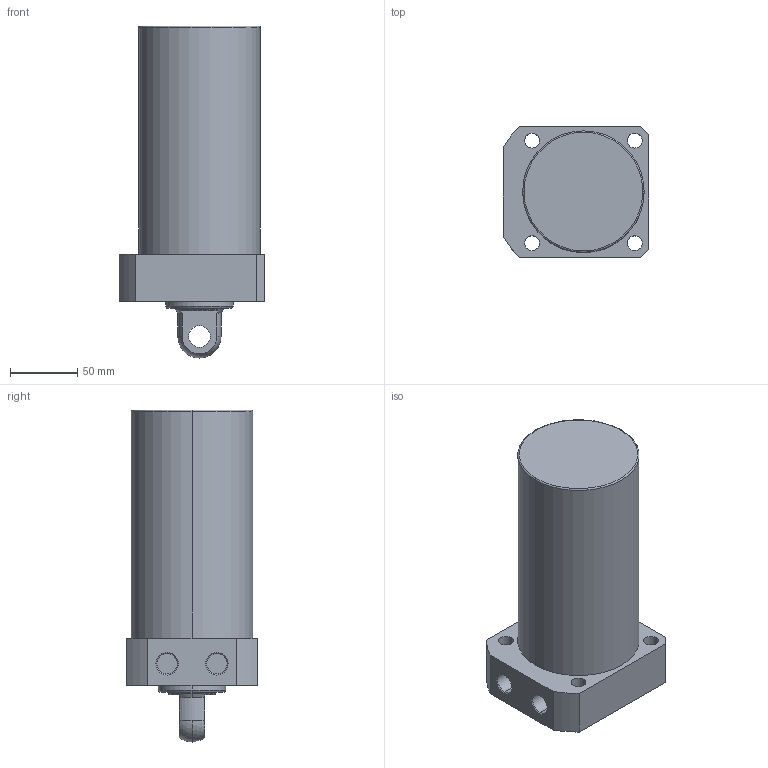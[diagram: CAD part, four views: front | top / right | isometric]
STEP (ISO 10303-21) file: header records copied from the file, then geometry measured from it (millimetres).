
FILE_DESCRIPTION (( 'STEP AP203' ), '1' );
FILE_NAME ('CLLR-090CP-125.STEP', '2019-12-18T06:57:21', ( '' ), ( '' ), 'SwSTEP 2.0', 'SolidWorks 2015', '' );
FILE_SCHEMA (( 'CONFIG_CONTROL_DESIGN' ));
Length unit declared in the file: millimetre
Products named in the file (1): CLLR-090CP-125
Bounding box: 108 x 97 x 246 mm (x, y, z)
Volume: 1439301.9 mm3; surface area: 91849.4 mm2
Topology: 1 solids, 1 shells, 59 faces, 139 edges, 89 vertices
Faces by surface type: cylinder 29, plane 18, cone 8, sphere 2, torus 2
Entity records: 1822 total; most frequent: DIRECTION 331, CARTESIAN_POINT 300, ORIENTED_EDGE 278, EDGE_CURVE 139, AXIS2_PLACEMENT_3D 136, VERTEX_POINT 89, CIRCLE 76, EDGE_LOOP 76
